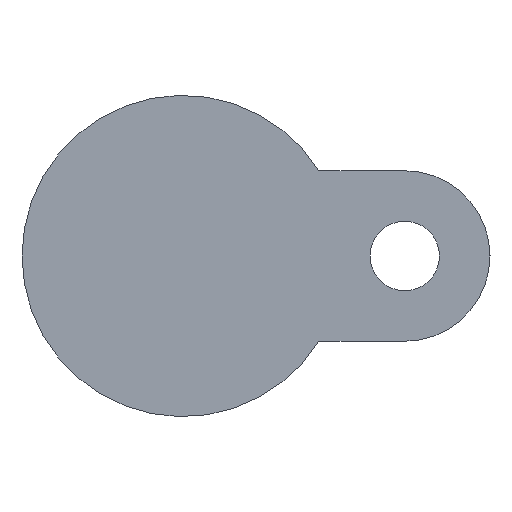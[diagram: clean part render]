
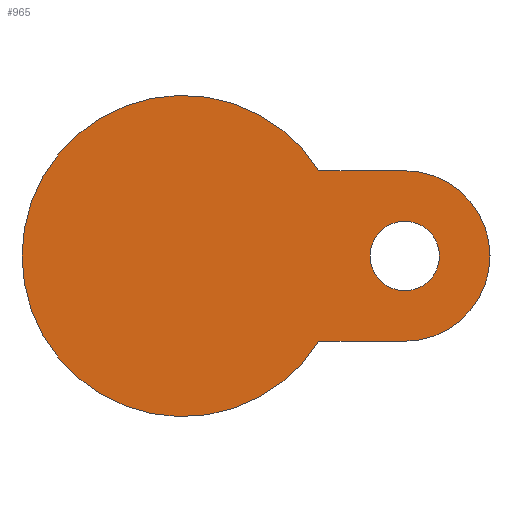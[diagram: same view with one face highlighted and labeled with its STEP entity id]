
A CAD part, front view. The second image highlights one B-rep face of the part: STEP entity #965.
In plain terms, the highlighted planar face has unit normal (0, -1, 0).
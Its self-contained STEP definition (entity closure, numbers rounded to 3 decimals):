
#25 = ORIENTED_EDGE ( 'NONE', *, *, #119, .T. ) ;
#27 = FACE_BOUND ( 'NONE', #593, .T. ) ;
#66 = LINE ( 'NONE', #520, #84 ) ;
#74 = ORIENTED_EDGE ( 'NONE', *, *, #941, .F. ) ;
#84 = VECTOR ( 'NONE', #187, 1000. ) ;
#119 = EDGE_CURVE ( 'NONE', #1179, #851, #485, .T. ) ;
#158 = CARTESIAN_POINT ( 'NONE',  ( 56., -23., 21.5 ) ) ;
#187 = DIRECTION ( 'NONE',  ( -1., 0., 0. ) ) ;
#289 = ORIENTED_EDGE ( 'NONE', *, *, #1371, .T. ) ;
#355 = ORIENTED_EDGE ( 'NONE', *, *, #562, .F. ) ;
#392 = DIRECTION ( 'NONE',  ( -1., 0., 0. ) ) ;
#397 = DIRECTION ( 'NONE',  ( 0., 1., 0. ) ) ;
#418 = AXIS2_PLACEMENT_3D ( 'NONE', #1316, #1436, #392 ) ;
#422 = CIRCLE ( 'NONE', #1466, 21.5 ) ;
#445 = AXIS2_PLACEMENT_3D ( 'NONE', #1472, #785, #765 ) ;
#460 = VERTEX_POINT ( 'NONE', #1480 ) ;
#465 = FACE_OUTER_BOUND ( 'NONE', #782, .T. ) ;
#485 = CIRCLE ( 'NONE', #418, 8.75 ) ;
#496 = ORIENTED_EDGE ( 'NONE', *, *, #1283, .F. ) ;
#509 = CARTESIAN_POINT ( 'NONE',  ( 64.75, -23., 0. ) ) ;
#512 = AXIS2_PLACEMENT_3D ( 'NONE', #1090, #397, #954 ) ;
#520 = CARTESIAN_POINT ( 'NONE',  ( 30.5, -23., -21.5 ) ) ;
#562 = EDGE_CURVE ( 'NONE', #801, #712, #1027, .T. ) ;
#582 = VERTEX_POINT ( 'NONE', #917 ) ;
#593 = EDGE_LOOP ( 'NONE', ( #845, #25 ) ) ;
#601 = DIRECTION ( 'NONE',  ( 1., 0., 0. ) ) ;
#657 = EDGE_CURVE ( 'NONE', #851, #1179, #1158, .T. ) ;
#712 = VERTEX_POINT ( 'NONE', #158 ) ;
#765 = DIRECTION ( 'NONE',  ( 1., 0., 0. ) ) ;
#782 = EDGE_LOOP ( 'NONE', ( #289, #496, #74, #355 ) ) ;
#785 = DIRECTION ( 'NONE',  ( 0., -1., 0. ) ) ;
#801 = VERTEX_POINT ( 'NONE', #1477 ) ;
#845 = ORIENTED_EDGE ( 'NONE', *, *, #657, .T. ) ;
#851 = VERTEX_POINT ( 'NONE', #1228 ) ;
#909 = DIRECTION ( 'NONE',  ( 0., -1., 0. ) ) ;
#917 = CARTESIAN_POINT ( 'NONE',  ( 34.322, -23., -21.5 ) ) ;
#941 = EDGE_CURVE ( 'NONE', #712, #460, #422, .T. ) ;
#945 = VECTOR ( 'NONE', #1491, 1000. ) ;
#954 = DIRECTION ( 'NONE',  ( -1., 0., 0. ) ) ;
#965 = ADVANCED_FACE ( 'NONE', ( #27, #465 ), #1030, .T. ) ;
#1020 = DIRECTION ( 'NONE',  ( 0., 1., 0. ) ) ;
#1021 = CARTESIAN_POINT ( 'NONE',  ( 30.5, -23., 21.5 ) ) ;
#1027 = LINE ( 'NONE', #1021, #945 ) ;
#1030 = PLANE ( 'NONE',  #1288 ) ;
#1090 = CARTESIAN_POINT ( 'NONE',  ( 56., -23., 0. ) ) ;
#1097 = CIRCLE ( 'NONE', #445, 40.5 ) ;
#1128 = CARTESIAN_POINT ( 'NONE',  ( 56., -23., 0. ) ) ;
#1158 = CIRCLE ( 'NONE', #512, 8.75 ) ;
#1164 = CARTESIAN_POINT ( 'NONE',  ( 40.5, -23., 0. ) ) ;
#1179 = VERTEX_POINT ( 'NONE', #509 ) ;
#1228 = CARTESIAN_POINT ( 'NONE',  ( 47.25, -23., 0. ) ) ;
#1283 = EDGE_CURVE ( 'NONE', #460, #582, #66, .T. ) ;
#1288 = AXIS2_PLACEMENT_3D ( 'NONE', #1164, #909, #601 ) ;
#1316 = CARTESIAN_POINT ( 'NONE',  ( 56., -23., 0. ) ) ;
#1371 = EDGE_CURVE ( 'NONE', #801, #582, #1097, .T. ) ;
#1436 = DIRECTION ( 'NONE',  ( 0., 1., 0. ) ) ;
#1466 = AXIS2_PLACEMENT_3D ( 'NONE', #1128, #1020, #1482 ) ;
#1472 = CARTESIAN_POINT ( 'NONE',  ( 0., -23., 0. ) ) ;
#1477 = CARTESIAN_POINT ( 'NONE',  ( 34.322, -23., 21.5 ) ) ;
#1480 = CARTESIAN_POINT ( 'NONE',  ( 56., -23., -21.5 ) ) ;
#1482 = DIRECTION ( 'NONE',  ( 1., 0., 0. ) ) ;
#1491 = DIRECTION ( 'NONE',  ( 1., 0., 0. ) ) ;
